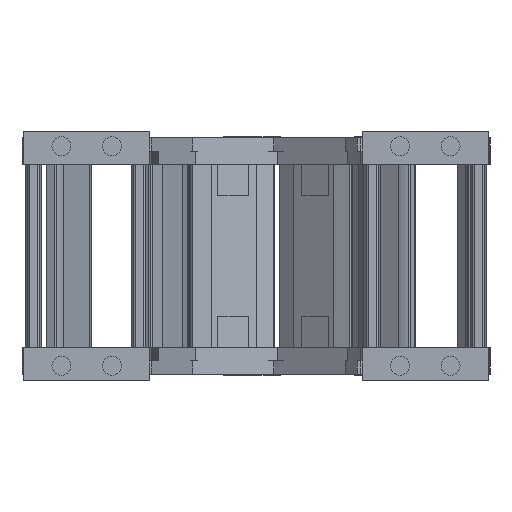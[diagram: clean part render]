
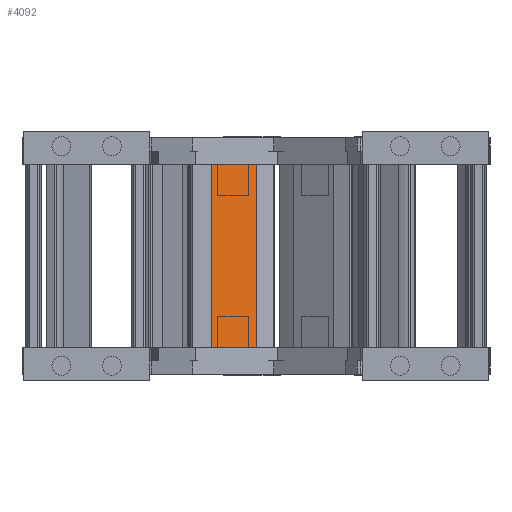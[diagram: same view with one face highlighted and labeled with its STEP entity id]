
A CAD part, left-side view. The second image highlights one B-rep face of the part: STEP entity #4092.
In plain terms, the highlighted planar face has unit normal (-0.962, -0.273, 0) as drawn and (0, -1, 0) by its records, which use the part's own axes.
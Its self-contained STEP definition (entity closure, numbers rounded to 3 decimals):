
#3646=DIRECTION('',(0.,0.,-1.));
#3647=VECTOR('',#3646,15.);
#3648=CARTESIAN_POINT('',(-13.5,0.,7.5));
#3649=LINE('',#3648,#3647);
#3733=DIRECTION('',(-1.,0.,0.));
#3734=VECTOR('',#3733,58.1);
#3735=CARTESIAN_POINT('',(44.6,0.,-7.5));
#3736=LINE('',#3735,#3734);
#3740=DIRECTION('',(1.,0.,0.));
#3741=VECTOR('',#3740,58.1);
#3742=CARTESIAN_POINT('',(-13.5,0.,7.5));
#3743=LINE('',#3742,#3741);
#3747=DIRECTION('',(0.,0.,-1.));
#3748=VECTOR('',#3747,15.);
#3749=CARTESIAN_POINT('',(44.6,0.,7.5));
#3750=LINE('',#3749,#3748);
#3865=CARTESIAN_POINT('',(44.6,0.,7.5));
#3866=CARTESIAN_POINT('',(44.6,0.,-7.5));
#3867=VERTEX_POINT('',#3865);
#3868=VERTEX_POINT('',#3866);
#3889=CARTESIAN_POINT('',(-13.5,0.,-7.5));
#3890=VERTEX_POINT('',#3889);
#3891=CARTESIAN_POINT('',(-13.5,0.,7.5));
#3892=VERTEX_POINT('',#3891);
#4079=CARTESIAN_POINT('',(13.1,0.,0.));
#4080=DIRECTION('',(0.,1.,0.));
#4081=DIRECTION('',(1.,0.,0.));
#4082=AXIS2_PLACEMENT_3D('',#4079,#4080,#4081);
#4083=PLANE('',#4082);
#4084=ORIENTED_EDGE('',*,*,#4065,.T.);
#4085=ORIENTED_EDGE('',*,*,#3930,.F.);
#4087=ORIENTED_EDGE('',*,*,#4086,.T.);
#4089=ORIENTED_EDGE('',*,*,#4088,.T.);
#4090=EDGE_LOOP('',(#4084,#4085,#4087,#4089));
#4091=FACE_OUTER_BOUND('',#4090,.F.);
#4092=ADVANCED_FACE('',(#4091),#4083,.F.);
#3930=EDGE_CURVE('',#3892,#3890,#3649,.T.);
#4065=EDGE_CURVE('',#3868,#3890,#3736,.T.);
#4086=EDGE_CURVE('',#3892,#3867,#3743,.T.);
#4088=EDGE_CURVE('',#3867,#3868,#3750,.T.);
